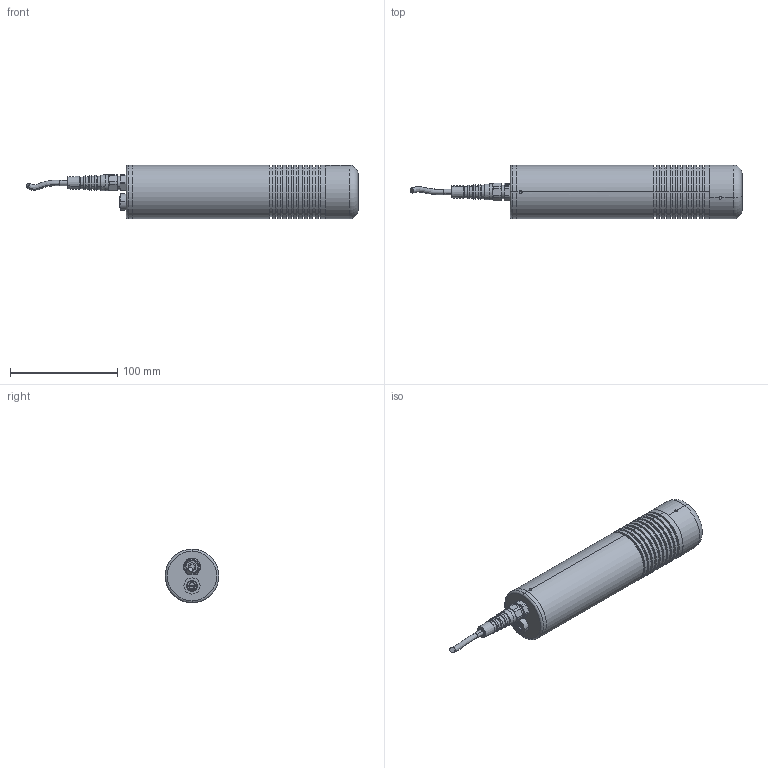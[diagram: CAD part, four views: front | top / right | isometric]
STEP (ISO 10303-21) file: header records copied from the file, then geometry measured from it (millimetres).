
FILE_DESCRIPTION (( 'STEP AP203' ), '1' );
FILE_NAME ('SENSORE LASER LT2V50 220V.STEP', '2021-06-09T11:16:23', ( '' ), ( '' ), 'SwSTEP 2.0', 'SolidWorks 2019', '' );
FILE_SCHEMA (( 'CONFIG_CONTROL_DESIGN' ));
Length unit declared in the file: millimetre
Products named in the file (6): 26611-40 - Protezione ottica SCH-LT2V50 - Anodizzato verde brillante_Default<A macchina>; 26613-41 - Involucro Ø50 SCH-LT2V50 - Anodizzato verde brillante_Default<A macchina>; 28516-00 - Portafusibile IP67 da pannello_Default<A macchina>; 26626-40 - Coperchio posteriore Ø50 SCH-LT2V50 - Anodizzato verde brillante_Default<A macchina>; SENSORE LASER LT2V50 220V; 28501-00 - Pressacavo spiralato PG7 Nero - PER ASSIEME_Default<A macchina>
Assembly tree (5 placements, depth 2):
  SENSORE LASER LT2V50 220V
    26613-41 - Involucro Ø50 SCH-LT2V50 - Anodizzato verde brillante_Default<A macchina>
    26611-40 - Protezione ottica SCH-LT2V50 - Anodizzato verde brillante_Default<A macchina>
    26626-40 - Coperchio posteriore Ø50 SCH-LT2V50 - Anodizzato verde brillante_Default<A macchina>
    28516-00 - Portafusibile IP67 da pannello_Default<A macchina>
    28501-00 - Pressacavo spiralato PG7 Nero - PER ASSIEME_Default<A macchina>
Bounding box: 309.15 x 50 x 50 mm (x, y, z)
Volume: 164101 mm3; surface area: 84558.6 mm2
Topology: 6 solids, 6 shells, 632 faces, 1639 edges, 1064 vertices
Faces by surface type: plane 406, cylinder 148, cone 70, torus 4, bspline 4
Entity records: 21451 total; most frequent: CARTESIAN_POINT 5105, ORIENTED_EDGE 3278, DIRECTION 3231, EDGE_CURVE 1639, LINE 1195, VECTOR 1195, VERTEX_POINT 1064, AXIS2_PLACEMENT_3D 1018
